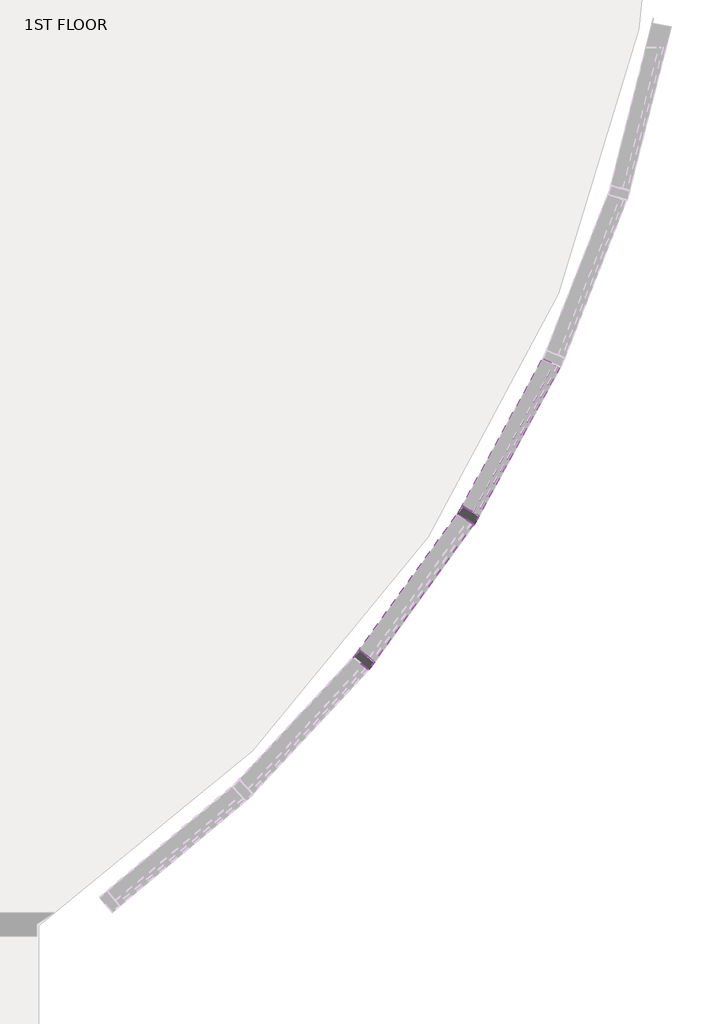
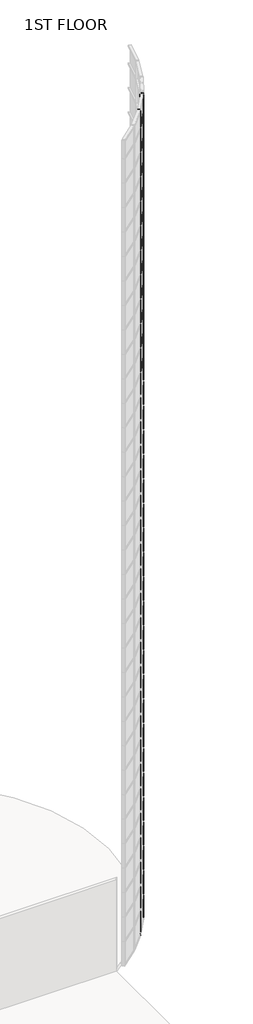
# One storey, part 6 of 17: 90 members, 27 plates.
"""IFC4 building model written with IfcOpenShell, lengths in millimetres."""

from ifc_helpers import new_model, si_unit, origin, place, context, project, spatial, transform, mapped, element, save
from components import member_0c249660, member_2b49869a, member_410c6227, system_panel_glazed_ce2914f7, system_panel_glazed_e049e42f

model = new_model("IFC4")

# Units and contexts
model_context = context("Model", 3, world=origin())
ifc_project = project(units=[si_unit("LENGTHUNIT", "METRE", prefix="MILLI")], contexts=[model_context])

# Site, building, storey
site = spatial("IfcSite", under=ifc_project)
building = spatial("IfcBuilding", under=site)
storey = spatial("IfcBuildingStorey", under=building, Name="1ST FLOOR", Elevation=4572.0)

# Members
placement = place(None, origin())
member_shape = member_0c249660(model_context)
element("IfcMember", 1, ObjectType="Rectangular Mullion : 2.5\" x 5\" rectangular", at=placement, inside=storey, context=model_context, shape_type="MappedRepresentation", body=[
    mapped(member_shape, transform((46857.1097029, 11989.3168429, 32613.6), x_axis=(0.0, 0.0, 1.0), y_axis=(-0.8776564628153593, 0.4792902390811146, 0.0), z_axis=(-0.47929023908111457, -0.8776564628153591, 0.0))),
])
element("IfcMember", 2, ObjectType="Rectangular Mullion : 2.5\" x 5\" rectangular", at=placement, inside=storey, context=model_context, shape_type="MappedRepresentation", body=[
    mapped(member_shape, transform((46181.1531398, 11045.2741552, 32613.6), x_axis=(0.0, 0.0, 1.0), y_axis=(-0.8110758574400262, 0.5849409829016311, 0.0), z_axis=(-0.5849409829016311, -0.8110758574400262, 0.0))),
])
element("IfcMember", 3, ObjectType="Rectangular Mullion : 2.5\" x 5\" rectangular", at=placement, inside=storey, context=model_context, shape_type="MappedRepresentation", body=[
    mapped(member_shape, transform((46857.1097029, 11989.3168429, 33832.8), x_axis=(0.0, 0.0, 1.0), y_axis=(-0.8776564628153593, 0.4792902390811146, 0.0), z_axis=(-0.47929023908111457, -0.8776564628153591, 0.0))),
])
element("IfcMember", 4, ObjectType="Rectangular Mullion : 2.5\" x 5\" rectangular", at=placement, inside=storey, context=model_context, shape_type="MappedRepresentation", body=[
    mapped(member_shape, transform((46181.1531398, 11045.2741552, 33832.8), x_axis=(0.0, 0.0, 1.0), y_axis=(-0.8110758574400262, 0.5849409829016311, 0.0), z_axis=(-0.5849409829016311, -0.8110758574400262, 0.0))),
])
element("IfcMember", 5, ObjectType="Rectangular Mullion : 2.5\" x 5\" rectangular", at=placement, inside=storey, context=model_context, shape_type="MappedRepresentation", body=[
    mapped(member_shape, transform((46857.1097029, 11989.3168429, 35052.0), x_axis=(0.0, 0.0, 1.0), y_axis=(-0.8776564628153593, 0.4792902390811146, 0.0), z_axis=(-0.47929023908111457, -0.8776564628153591, 0.0))),
])
element("IfcMember", 6, ObjectType="Rectangular Mullion : 2.5\" x 5\" rectangular", at=placement, inside=storey, context=model_context, shape_type="MappedRepresentation", body=[
    mapped(member_shape, transform((46181.1531398, 11045.2741552, 35052.0), x_axis=(0.0, 0.0, 1.0), y_axis=(-0.8110758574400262, 0.5849409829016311, 0.0), z_axis=(-0.5849409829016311, -0.8110758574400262, 0.0))),
])
element("IfcMember", 7, ObjectType="Rectangular Mullion : 2.5\" x 5\" rectangular", at=placement, inside=storey, context=model_context, shape_type="MappedRepresentation", body=[
    mapped(member_shape, transform((46857.1097029, 11989.3168429, 36271.2), x_axis=(0.0, 0.0, 1.0), y_axis=(-0.87765646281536, 0.479290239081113, 0.0), z_axis=(-0.479290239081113, -0.87765646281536, 0.0))),
])
element("IfcMember", 8, ObjectType="Rectangular Mullion : 2.5\" x 5\" rectangular", at=placement, inside=storey, context=model_context, shape_type="MappedRepresentation", body=[
    mapped(member_shape, transform((46181.1531398, 11045.2741552, 36271.2), x_axis=(0.0, 0.0, 1.0), y_axis=(-0.8110758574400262, 0.5849409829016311, 0.0), z_axis=(-0.5849409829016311, -0.8110758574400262, 0.0))),
])
element("IfcMember", 9, ObjectType="Rectangular Mullion : 2.5\" x 5\" rectangular", at=placement, inside=storey, context=model_context, shape_type="MappedRepresentation", body=[
    mapped(member_shape, transform((46857.1097029, 11989.3168429, 37490.4), x_axis=(0.0, 0.0, 1.0), y_axis=(-0.87765646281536, 0.479290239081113, 0.0), z_axis=(-0.479290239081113, -0.87765646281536, 0.0))),
])
element("IfcMember", 10, ObjectType="Rectangular Mullion : 2.5\" x 5\" rectangular", at=placement, inside=storey, context=model_context, shape_type="MappedRepresentation", body=[
    mapped(member_shape, transform((46181.1531398, 11045.2741552, 37490.4), x_axis=(0.0, 0.0, 1.0), y_axis=(-0.8110758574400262, 0.5849409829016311, 0.0), z_axis=(-0.5849409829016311, -0.8110758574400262, 0.0))),
])
element("IfcMember", 11, ObjectType="Rectangular Mullion : 2.5\" x 5\" rectangular", at=placement, inside=storey, context=model_context, shape_type="MappedRepresentation", body=[
    mapped(member_shape, transform((46857.1097029, 11989.3168429, 38709.6), x_axis=(0.0, 0.0, 1.0), y_axis=(-0.87765646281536, 0.479290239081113, 0.0), z_axis=(-0.479290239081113, -0.87765646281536, 0.0))),
])
element("IfcMember", 12, ObjectType="Rectangular Mullion : 2.5\" x 5\" rectangular", at=placement, inside=storey, context=model_context, shape_type="MappedRepresentation", body=[
    mapped(member_shape, transform((46181.1531398, 11045.2741552, 38709.6), x_axis=(0.0, 0.0, 1.0), y_axis=(-0.8110758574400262, 0.5849409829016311, 0.0), z_axis=(-0.5849409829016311, -0.8110758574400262, 0.0))),
])
element("IfcMember", 13, ObjectType="Rectangular Mullion : 2.5\" x 5\" rectangular", at=placement, inside=storey, context=model_context, shape_type="MappedRepresentation", body=[
    mapped(member_shape, transform((46857.1097029, 11989.3168429, 39928.8), x_axis=(0.0, 0.0, 1.0), y_axis=(-0.87765646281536, 0.479290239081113, 0.0), z_axis=(-0.479290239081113, -0.87765646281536, 0.0))),
])
element("IfcMember", 14, ObjectType="Rectangular Mullion : 2.5\" x 5\" rectangular", at=placement, inside=storey, context=model_context, shape_type="MappedRepresentation", body=[
    mapped(member_shape, transform((46181.1531398, 11045.2741552, 39928.8), x_axis=(0.0, 0.0, 1.0), y_axis=(-0.8110758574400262, 0.5849409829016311, 0.0), z_axis=(-0.5849409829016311, -0.8110758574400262, 0.0))),
])
element("IfcMember", 15, ObjectType="Rectangular Mullion : 2.5\" x 5\" rectangular", at=placement, inside=storey, context=model_context, shape_type="MappedRepresentation", body=[
    mapped(member_shape, transform((46857.1097029, 11989.3168429, 41148.0), x_axis=(0.0, 0.0, 1.0), y_axis=(-0.87765646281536, 0.479290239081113, 0.0), z_axis=(-0.479290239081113, -0.87765646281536, 0.0))),
])
element("IfcMember", 16, ObjectType="Rectangular Mullion : 2.5\" x 5\" rectangular", at=placement, inside=storey, context=model_context, shape_type="MappedRepresentation", body=[
    mapped(member_shape, transform((46181.1531398, 11045.2741552, 41148.0), x_axis=(0.0, 0.0, 1.0), y_axis=(-0.8110758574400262, 0.5849409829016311, 0.0), z_axis=(-0.5849409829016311, -0.8110758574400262, 0.0))),
])
element("IfcMember", 17, ObjectType="Rectangular Mullion : 2.5\" x 5\" rectangular", at=placement, inside=storey, context=model_context, shape_type="MappedRepresentation", body=[
    mapped(member_shape, transform((46857.1097029, 11989.3168429, 42367.2), x_axis=(0.0, 0.0, 1.0), y_axis=(-0.87765646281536, 0.479290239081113, 0.0), z_axis=(-0.479290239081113, -0.87765646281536, 0.0))),
])
element("IfcMember", 18, ObjectType="Rectangular Mullion : 2.5\" x 5\" rectangular", at=placement, inside=storey, context=model_context, shape_type="MappedRepresentation", body=[
    mapped(member_shape, transform((46181.1531398, 11045.2741552, 42367.2), x_axis=(0.0, 0.0, 1.0), y_axis=(-0.8110758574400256, 0.5849409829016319, 0.0), z_axis=(-0.5849409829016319, -0.8110758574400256, 0.0))),
])
element("IfcMember", 19, ObjectType="Rectangular Mullion : 2.5\" x 5\" rectangular", at=placement, inside=storey, context=model_context, shape_type="MappedRepresentation", body=[
    mapped(member_shape, transform((46857.1097029, 11989.3168429, 43586.4), x_axis=(0.0, 0.0, 1.0), y_axis=(-0.87765646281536, 0.479290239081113, 0.0), z_axis=(-0.479290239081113, -0.87765646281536, 0.0))),
])
element("IfcMember", 20, ObjectType="Rectangular Mullion : 2.5\" x 5\" rectangular", at=placement, inside=storey, context=model_context, shape_type="MappedRepresentation", body=[
    mapped(member_shape, transform((46181.1531398, 11045.2741552, 43586.4), x_axis=(0.0, 0.0, 1.0), y_axis=(-0.8110758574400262, 0.5849409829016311, 0.0), z_axis=(-0.5849409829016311, -0.8110758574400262, 0.0))),
])
element("IfcMember", 21, ObjectType="Rectangular Mullion : 2.5\" x 5\" rectangular", at=placement, inside=storey, context=model_context, shape_type="MappedRepresentation", body=[
    mapped(member_shape, transform((46857.1097029, 11989.3168429, 44805.6), x_axis=(0.0, 0.0, 1.0), y_axis=(-0.87765646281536, 0.479290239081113, 0.0), z_axis=(-0.479290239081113, -0.87765646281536, 0.0))),
])
element("IfcMember", 22, ObjectType="Rectangular Mullion : 2.5\" x 5\" rectangular", at=placement, inside=storey, context=model_context, shape_type="MappedRepresentation", body=[
    mapped(member_shape, transform((46181.1531398, 11045.2741552, 44805.6), x_axis=(0.0, 0.0, 1.0), y_axis=(-0.811075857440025, 0.5849409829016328, 0.0), z_axis=(-0.5849409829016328, -0.811075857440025, 0.0))),
])
member_2_shape = member_2b49869a(model_context)
element("IfcMember", 23, ObjectType="Rectangular Mullion : 2.5\" x 5\" rectangular", at=placement, inside=storey, context=model_context, shape_type="MappedRepresentation", body=[
    mapped(member_2_shape, transform((46841.8922379, 11961.4512502, 4572.0), x_axis=(-0.5331559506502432, -0.8460169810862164, 0.0), y_axis=(-0.8460169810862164, 0.5331559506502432, 0.0), z_axis=(0.0, 0.0, -1.0))),
])
element("IfcMember", 24, ObjectType="Rectangular Mullion : 2.5\" x 5\" rectangular", at=placement, inside=storey, context=model_context, shape_type="MappedRepresentation", body=[
    mapped(member_2_shape, transform((46162.5812636, 11019.5224968, 4572.0), x_axis=(-0.6344432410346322, -0.7729694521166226, 0.0), y_axis=(-0.7729694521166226, 0.6344432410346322, 0.0), z_axis=(0.0, 0.0, -1.0))),
])
element("IfcMember", 25, ObjectType="Rectangular Mullion : 2.5\" x 5\" rectangular", at=placement, inside=storey, context=model_context, shape_type="MappedRepresentation", body=[
    mapped(member_2_shape, transform((46841.8922379, 11961.4512502, 5791.2), x_axis=(-0.5331559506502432, -0.8460169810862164, 0.0), y_axis=(-0.8460169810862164, 0.5331559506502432, 0.0), z_axis=(0.0, 0.0, -1.0))),
])
element("IfcMember", 26, ObjectType="Rectangular Mullion : 2.5\" x 5\" rectangular", at=placement, inside=storey, context=model_context, shape_type="MappedRepresentation", body=[
    mapped(member_2_shape, transform((46162.5812636, 11019.5224968, 5791.2), x_axis=(-0.6344432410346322, -0.7729694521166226, 0.0), y_axis=(-0.7729694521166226, 0.6344432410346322, 0.0), z_axis=(0.0, 0.0, -1.0))),
])
element("IfcMember", 27, ObjectType="Rectangular Mullion : 2.5\" x 5\" rectangular", at=placement, inside=storey, context=model_context, shape_type="MappedRepresentation", body=[
    mapped(member_2_shape, transform((46841.8922379, 11961.4512502, 7010.4), x_axis=(-0.5331559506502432, -0.8460169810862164, 0.0), y_axis=(-0.8460169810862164, 0.5331559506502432, 0.0), z_axis=(0.0, 0.0, -1.0))),
])
element("IfcMember", 28, ObjectType="Rectangular Mullion : 2.5\" x 5\" rectangular", at=placement, inside=storey, context=model_context, shape_type="MappedRepresentation", body=[
    mapped(member_2_shape, transform((46162.5812636, 11019.5224968, 7010.4), x_axis=(-0.6344432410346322, -0.7729694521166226, 0.0), y_axis=(-0.7729694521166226, 0.6344432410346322, 0.0), z_axis=(0.0, 0.0, -1.0))),
])
element("IfcMember", 29, ObjectType="Rectangular Mullion : 2.5\" x 5\" rectangular", at=placement, inside=storey, context=model_context, shape_type="MappedRepresentation", body=[
    mapped(member_2_shape, transform((46841.8922379, 11961.4512502, 8229.6), x_axis=(-0.5331559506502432, -0.8460169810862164, 0.0), y_axis=(-0.8460169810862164, 0.5331559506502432, 0.0), z_axis=(0.0, 0.0, -1.0))),
])
element("IfcMember", 30, ObjectType="Rectangular Mullion : 2.5\" x 5\" rectangular", at=placement, inside=storey, context=model_context, shape_type="MappedRepresentation", body=[
    mapped(member_2_shape, transform((46162.5812636, 11019.5224968, 8229.6), x_axis=(-0.6344432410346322, -0.7729694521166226, 0.0), y_axis=(-0.7729694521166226, 0.6344432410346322, 0.0), z_axis=(0.0, 0.0, -1.0))),
])
element("IfcMember", 31, ObjectType="Rectangular Mullion : 2.5\" x 5\" rectangular", at=placement, inside=storey, context=model_context, shape_type="MappedRepresentation", body=[
    mapped(member_2_shape, transform((46841.8922379, 11961.4512502, 9448.8), x_axis=(-0.5331559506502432, -0.8460169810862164, 0.0), y_axis=(-0.8460169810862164, 0.5331559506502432, 0.0), z_axis=(0.0, 0.0, -1.0))),
])
element("IfcMember", 32, ObjectType="Rectangular Mullion : 2.5\" x 5\" rectangular", at=placement, inside=storey, context=model_context, shape_type="MappedRepresentation", body=[
    mapped(member_2_shape, transform((46162.5812636, 11019.5224968, 9448.8), x_axis=(-0.6344432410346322, -0.7729694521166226, 0.0), y_axis=(-0.7729694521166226, 0.6344432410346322, 0.0), z_axis=(0.0, 0.0, -1.0))),
])
element("IfcMember", 33, ObjectType="Rectangular Mullion : 2.5\" x 5\" rectangular", at=placement, inside=storey, context=model_context, shape_type="MappedRepresentation", body=[
    mapped(member_2_shape, transform((46841.8922379, 11961.4512502, 10668.0), x_axis=(-0.5331559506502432, -0.8460169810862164, 0.0), y_axis=(-0.8460169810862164, 0.5331559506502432, 0.0), z_axis=(0.0, 0.0, -1.0))),
])
element("IfcMember", 34, ObjectType="Rectangular Mullion : 2.5\" x 5\" rectangular", at=placement, inside=storey, context=model_context, shape_type="MappedRepresentation", body=[
    mapped(member_2_shape, transform((46162.5812636, 11019.5224968, 10668.0), x_axis=(-0.6344432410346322, -0.7729694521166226, 0.0), y_axis=(-0.7729694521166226, 0.6344432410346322, 0.0), z_axis=(0.0, 0.0, -1.0))),
])
element("IfcMember", 35, ObjectType="Rectangular Mullion : 2.5\" x 5\" rectangular", at=placement, inside=storey, context=model_context, shape_type="MappedRepresentation", body=[
    mapped(member_2_shape, transform((46841.8922379, 11961.4512502, 11887.2), x_axis=(-0.5331559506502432, -0.8460169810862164, 0.0), y_axis=(-0.8460169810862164, 0.5331559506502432, 0.0), z_axis=(0.0, 0.0, -1.0))),
])
element("IfcMember", 36, ObjectType="Rectangular Mullion : 2.5\" x 5\" rectangular", at=placement, inside=storey, context=model_context, shape_type="MappedRepresentation", body=[
    mapped(member_2_shape, transform((46162.5812636, 11019.5224968, 11887.2), x_axis=(-0.6344432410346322, -0.7729694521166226, 0.0), y_axis=(-0.7729694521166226, 0.6344432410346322, 0.0), z_axis=(0.0, 0.0, -1.0))),
])
element("IfcMember", 37, ObjectType="Rectangular Mullion : 2.5\" x 5\" rectangular", at=placement, inside=storey, context=model_context, shape_type="MappedRepresentation", body=[
    mapped(member_2_shape, transform((46841.8922379, 11961.4512502, 13106.4), x_axis=(-0.5331559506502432, -0.8460169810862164, 0.0), y_axis=(-0.8460169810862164, 0.5331559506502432, 0.0), z_axis=(0.0, 0.0, -1.0))),
])
element("IfcMember", 38, ObjectType="Rectangular Mullion : 2.5\" x 5\" rectangular", at=placement, inside=storey, context=model_context, shape_type="MappedRepresentation", body=[
    mapped(member_2_shape, transform((46162.5812636, 11019.5224968, 13106.4), x_axis=(-0.6344432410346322, -0.7729694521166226, 0.0), y_axis=(-0.7729694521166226, 0.6344432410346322, 0.0), z_axis=(0.0, 0.0, -1.0))),
])
element("IfcMember", 39, ObjectType="Rectangular Mullion : 2.5\" x 5\" rectangular", at=placement, inside=storey, context=model_context, shape_type="MappedRepresentation", body=[
    mapped(member_2_shape, transform((46841.8922379, 11961.4512502, 14325.6), x_axis=(-0.5331559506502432, -0.8460169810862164, 0.0), y_axis=(-0.8460169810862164, 0.5331559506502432, 0.0), z_axis=(0.0, 0.0, -1.0))),
])
element("IfcMember", 40, ObjectType="Rectangular Mullion : 2.5\" x 5\" rectangular", at=placement, inside=storey, context=model_context, shape_type="MappedRepresentation", body=[
    mapped(member_2_shape, transform((46162.5812636, 11019.5224968, 14325.6), x_axis=(-0.6344432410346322, -0.7729694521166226, 0.0), y_axis=(-0.7729694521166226, 0.6344432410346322, 0.0), z_axis=(0.0, 0.0, -1.0))),
])
element("IfcMember", 41, ObjectType="Rectangular Mullion : 2.5\" x 5\" rectangular", at=placement, inside=storey, context=model_context, shape_type="MappedRepresentation", body=[
    mapped(member_2_shape, transform((46841.8922379, 11961.4512502, 15544.8), x_axis=(-0.5331559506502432, -0.8460169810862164, 0.0), y_axis=(-0.8460169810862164, 0.5331559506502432, 0.0), z_axis=(0.0, 0.0, -1.0))),
])
element("IfcMember", 42, ObjectType="Rectangular Mullion : 2.5\" x 5\" rectangular", at=placement, inside=storey, context=model_context, shape_type="MappedRepresentation", body=[
    mapped(member_2_shape, transform((46162.5812636, 11019.5224968, 15544.8), x_axis=(-0.6344432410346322, -0.7729694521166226, 0.0), y_axis=(-0.7729694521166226, 0.6344432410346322, 0.0), z_axis=(0.0, 0.0, -1.0))),
])
element("IfcMember", 43, ObjectType="Rectangular Mullion : 2.5\" x 5\" rectangular", at=placement, inside=storey, context=model_context, shape_type="MappedRepresentation", body=[
    mapped(member_2_shape, transform((46841.8922379, 11961.4512502, 16764.0), x_axis=(-0.5331559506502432, -0.8460169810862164, 0.0), y_axis=(-0.8460169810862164, 0.5331559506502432, 0.0), z_axis=(0.0, 0.0, -1.0))),
])
element("IfcMember", 44, ObjectType="Rectangular Mullion : 2.5\" x 5\" rectangular", at=placement, inside=storey, context=model_context, shape_type="MappedRepresentation", body=[
    mapped(member_2_shape, transform((46162.5812636, 11019.5224968, 16764.0), x_axis=(-0.6344432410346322, -0.7729694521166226, 0.0), y_axis=(-0.7729694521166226, 0.6344432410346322, 0.0), z_axis=(0.0, 0.0, -1.0))),
])
element("IfcMember", 45, ObjectType="Rectangular Mullion : 2.5\" x 5\" rectangular", at=placement, inside=storey, context=model_context, shape_type="MappedRepresentation", body=[
    mapped(member_2_shape, transform((46841.8922379, 11961.4512502, 17983.2), x_axis=(-0.5331559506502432, -0.8460169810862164, 0.0), y_axis=(-0.8460169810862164, 0.5331559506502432, 0.0), z_axis=(0.0, 0.0, -1.0))),
])
element("IfcMember", 46, ObjectType="Rectangular Mullion : 2.5\" x 5\" rectangular", at=placement, inside=storey, context=model_context, shape_type="MappedRepresentation", body=[
    mapped(member_2_shape, transform((46162.5812636, 11019.5224968, 17983.2), x_axis=(-0.6344432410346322, -0.7729694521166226, 0.0), y_axis=(-0.7729694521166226, 0.6344432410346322, 0.0), z_axis=(0.0, 0.0, -1.0))),
])
element("IfcMember", 47, ObjectType="Rectangular Mullion : 2.5\" x 5\" rectangular", at=placement, inside=storey, context=model_context, shape_type="MappedRepresentation", body=[
    mapped(member_2_shape, transform((46841.8922379, 11961.4512502, 19202.4), x_axis=(-0.5331559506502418, -0.8460169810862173, 0.0), y_axis=(-0.8460169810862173, 0.5331559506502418, 0.0), z_axis=(0.0, 0.0, -1.0))),
])
element("IfcMember", 48, ObjectType="Rectangular Mullion : 2.5\" x 5\" rectangular", at=placement, inside=storey, context=model_context, shape_type="MappedRepresentation", body=[
    mapped(member_2_shape, transform((46162.5812636, 11019.5224968, 19202.4), x_axis=(-0.6344432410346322, -0.7729694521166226, 0.0), y_axis=(-0.7729694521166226, 0.6344432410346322, 0.0), z_axis=(0.0, 0.0, -1.0))),
])
element("IfcMember", 49, ObjectType="Rectangular Mullion : 2.5\" x 5\" rectangular", at=placement, inside=storey, context=model_context, shape_type="MappedRepresentation", body=[
    mapped(member_2_shape, transform((46841.8922379, 11961.4512502, 20421.6), x_axis=(-0.5331559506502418, -0.8460169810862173, 0.0), y_axis=(-0.8460169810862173, 0.5331559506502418, 0.0), z_axis=(0.0, 0.0, -1.0))),
])
element("IfcMember", 50, ObjectType="Rectangular Mullion : 2.5\" x 5\" rectangular", at=placement, inside=storey, context=model_context, shape_type="MappedRepresentation", body=[
    mapped(member_2_shape, transform((46162.5812636, 11019.5224968, 20421.6), x_axis=(-0.6344432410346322, -0.7729694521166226, 0.0), y_axis=(-0.7729694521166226, 0.6344432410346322, 0.0), z_axis=(0.0, 0.0, -1.0))),
])
element("IfcMember", 51, ObjectType="Rectangular Mullion : 2.5\" x 5\" rectangular", at=placement, inside=storey, context=model_context, shape_type="MappedRepresentation", body=[
    mapped(member_2_shape, transform((46841.8922379, 11961.4512502, 21640.8), x_axis=(-0.5331559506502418, -0.8460169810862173, 0.0), y_axis=(-0.8460169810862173, 0.5331559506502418, 0.0), z_axis=(0.0, 0.0, -1.0))),
])
element("IfcMember", 52, ObjectType="Rectangular Mullion : 2.5\" x 5\" rectangular", at=placement, inside=storey, context=model_context, shape_type="MappedRepresentation", body=[
    mapped(member_2_shape, transform((46162.5812636, 11019.5224968, 21640.8), x_axis=(-0.6344432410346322, -0.7729694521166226, 0.0), y_axis=(-0.7729694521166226, 0.6344432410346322, 0.0), z_axis=(0.0, 0.0, -1.0))),
])
element("IfcMember", 53, ObjectType="Rectangular Mullion : 2.5\" x 5\" rectangular", at=placement, inside=storey, context=model_context, shape_type="MappedRepresentation", body=[
    mapped(member_2_shape, transform((46841.8922379, 11961.4512502, 22860.0), x_axis=(-0.5331559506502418, -0.8460169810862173, 0.0), y_axis=(-0.8460169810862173, 0.5331559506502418, 0.0), z_axis=(0.0, 0.0, -1.0))),
])
element("IfcMember", 54, ObjectType="Rectangular Mullion : 2.5\" x 5\" rectangular", at=placement, inside=storey, context=model_context, shape_type="MappedRepresentation", body=[
    mapped(member_2_shape, transform((46162.5812636, 11019.5224968, 22860.0), x_axis=(-0.6344432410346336, -0.7729694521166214, 0.0), y_axis=(-0.7729694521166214, 0.6344432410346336, 0.0), z_axis=(0.0, 0.0, -1.0))),
])
element("IfcMember", 55, ObjectType="Rectangular Mullion : 2.5\" x 5\" rectangular", at=placement, inside=storey, context=model_context, shape_type="MappedRepresentation", body=[
    mapped(member_2_shape, transform((46841.8922379, 11961.4512502, 24079.2), x_axis=(-0.5331559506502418, -0.8460169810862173, 0.0), y_axis=(-0.8460169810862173, 0.5331559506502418, 0.0), z_axis=(0.0, 0.0, -1.0))),
])
element("IfcMember", 56, ObjectType="Rectangular Mullion : 2.5\" x 5\" rectangular", at=placement, inside=storey, context=model_context, shape_type="MappedRepresentation", body=[
    mapped(member_2_shape, transform((46162.5812636, 11019.5224968, 24079.2), x_axis=(-0.6344432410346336, -0.7729694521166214, 0.0), y_axis=(-0.7729694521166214, 0.6344432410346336, 0.0), z_axis=(0.0, 0.0, -1.0))),
])
element("IfcMember", 57, ObjectType="Rectangular Mullion : 2.5\" x 5\" rectangular", at=placement, inside=storey, context=model_context, shape_type="MappedRepresentation", body=[
    mapped(member_2_shape, transform((46841.8922379, 11961.4512502, 25298.4), x_axis=(-0.5331559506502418, -0.8460169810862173, 0.0), y_axis=(-0.8460169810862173, 0.5331559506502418, 0.0), z_axis=(0.0, 0.0, -1.0))),
])
element("IfcMember", 58, ObjectType="Rectangular Mullion : 2.5\" x 5\" rectangular", at=placement, inside=storey, context=model_context, shape_type="MappedRepresentation", body=[
    mapped(member_2_shape, transform((46162.5812636, 11019.5224968, 25298.4), x_axis=(-0.6344432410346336, -0.7729694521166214, 0.0), y_axis=(-0.7729694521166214, 0.6344432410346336, 0.0), z_axis=(0.0, 0.0, -1.0))),
])
element("IfcMember", 59, ObjectType="Rectangular Mullion : 2.5\" x 5\" rectangular", at=placement, inside=storey, context=model_context, shape_type="MappedRepresentation", body=[
    mapped(member_2_shape, transform((46841.8922379, 11961.4512502, 26517.6), x_axis=(-0.5331559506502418, -0.8460169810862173, 0.0), y_axis=(-0.8460169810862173, 0.5331559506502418, 0.0), z_axis=(0.0, 0.0, -1.0))),
])
element("IfcMember", 60, ObjectType="Rectangular Mullion : 2.5\" x 5\" rectangular", at=placement, inside=storey, context=model_context, shape_type="MappedRepresentation", body=[
    mapped(member_2_shape, transform((46162.5812636, 11019.5224968, 26517.6), x_axis=(-0.6344432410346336, -0.7729694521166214, 0.0), y_axis=(-0.7729694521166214, 0.6344432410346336, 0.0), z_axis=(0.0, 0.0, -1.0))),
])
element("IfcMember", 61, ObjectType="Rectangular Mullion : 2.5\" x 5\" rectangular", at=placement, inside=storey, context=model_context, shape_type="MappedRepresentation", body=[
    mapped(member_2_shape, transform((46841.8922379, 11961.4512502, 27736.8), x_axis=(-0.5331559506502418, -0.8460169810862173, 0.0), y_axis=(-0.8460169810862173, 0.5331559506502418, 0.0), z_axis=(0.0, 0.0, -1.0))),
])
element("IfcMember", 62, ObjectType="Rectangular Mullion : 2.5\" x 5\" rectangular", at=placement, inside=storey, context=model_context, shape_type="MappedRepresentation", body=[
    mapped(member_2_shape, transform((46162.5812636, 11019.5224968, 27736.8), x_axis=(-0.6344432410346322, -0.7729694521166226, 0.0), y_axis=(-0.7729694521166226, 0.6344432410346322, 0.0), z_axis=(0.0, 0.0, -1.0))),
])
element("IfcMember", 63, ObjectType="Rectangular Mullion : 2.5\" x 5\" rectangular", at=placement, inside=storey, context=model_context, shape_type="MappedRepresentation", body=[
    mapped(member_2_shape, transform((46841.8922379, 11961.4512502, 28956.0), x_axis=(-0.5331559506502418, -0.8460169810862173, 0.0), y_axis=(-0.8460169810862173, 0.5331559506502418, 0.0), z_axis=(0.0, 0.0, -1.0))),
])
element("IfcMember", 64, ObjectType="Rectangular Mullion : 2.5\" x 5\" rectangular", at=placement, inside=storey, context=model_context, shape_type="MappedRepresentation", body=[
    mapped(member_2_shape, transform((46162.5812636, 11019.5224968, 28956.0), x_axis=(-0.6344432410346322, -0.7729694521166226, 0.0), y_axis=(-0.7729694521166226, 0.6344432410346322, 0.0), z_axis=(0.0, 0.0, -1.0))),
])
element("IfcMember", 65, ObjectType="Rectangular Mullion : 2.5\" x 5\" rectangular", at=placement, inside=storey, context=model_context, shape_type="MappedRepresentation", body=[
    mapped(member_2_shape, transform((46841.8922379, 11961.4512502, 30175.2), x_axis=(-0.5331559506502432, -0.8460169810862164, 0.0), y_axis=(-0.8460169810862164, 0.5331559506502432, 0.0), z_axis=(0.0, 0.0, -1.0))),
])
element("IfcMember", 66, ObjectType="Rectangular Mullion : 2.5\" x 5\" rectangular", at=placement, inside=storey, context=model_context, shape_type="MappedRepresentation", body=[
    mapped(member_2_shape, transform((46162.5812636, 11019.5224968, 30175.2), x_axis=(-0.6344432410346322, -0.7729694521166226, 0.0), y_axis=(-0.7729694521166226, 0.6344432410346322, 0.0), z_axis=(0.0, 0.0, -1.0))),
])
element("IfcMember", 67, ObjectType="Rectangular Mullion : 2.5\" x 5\" rectangular", at=placement, inside=storey, context=model_context, shape_type="MappedRepresentation", body=[
    mapped(member_2_shape, transform((46841.8922379, 11961.4512502, 31394.4), x_axis=(-0.5331559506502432, -0.8460169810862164, 0.0), y_axis=(-0.8460169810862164, 0.5331559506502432, 0.0), z_axis=(0.0, 0.0, -1.0))),
])
element("IfcMember", 68, ObjectType="Rectangular Mullion : 2.5\" x 5\" rectangular", at=placement, inside=storey, context=model_context, shape_type="MappedRepresentation", body=[
    mapped(member_2_shape, transform((46162.5812636, 11019.5224968, 31394.4), x_axis=(-0.6344432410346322, -0.7729694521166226, 0.0), y_axis=(-0.7729694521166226, 0.6344432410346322, 0.0), z_axis=(0.0, 0.0, -1.0))),
])
element("IfcMember", 69, ObjectType="Rectangular Mullion : 2.5\" x 5\" rectangular", at=placement, inside=storey, context=model_context, shape_type="MappedRepresentation", body=[
    mapped(member_2_shape, transform((46841.8922379, 11961.4512502, 32613.6), x_axis=(-0.5331559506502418, -0.8460169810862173, 0.0), y_axis=(-0.8460169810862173, 0.5331559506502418, 0.0), z_axis=(0.0, 0.0, -1.0))),
])
element("IfcMember", 70, ObjectType="Rectangular Mullion : 2.5\" x 5\" rectangular", at=placement, inside=storey, context=model_context, shape_type="MappedRepresentation", body=[
    mapped(member_2_shape, transform((46162.5812636, 11019.5224968, 32613.6), x_axis=(-0.6344432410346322, -0.7729694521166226, 0.0), y_axis=(-0.7729694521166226, 0.6344432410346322, 0.0), z_axis=(0.0, 0.0, -1.0))),
])
element("IfcMember", 71, ObjectType="Rectangular Mullion : 2.5\" x 5\" rectangular", at=placement, inside=storey, context=model_context, shape_type="MappedRepresentation", body=[
    mapped(member_2_shape, transform((46841.8922379, 11961.4512502, 33832.8), x_axis=(-0.5331559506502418, -0.8460169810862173, 0.0), y_axis=(-0.8460169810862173, 0.5331559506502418, 0.0), z_axis=(0.0, 0.0, -1.0))),
])
element("IfcMember", 72, ObjectType="Rectangular Mullion : 2.5\" x 5\" rectangular", at=placement, inside=storey, context=model_context, shape_type="MappedRepresentation", body=[
    mapped(member_2_shape, transform((46162.5812636, 11019.5224968, 33832.8), x_axis=(-0.6344432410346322, -0.7729694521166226, 0.0), y_axis=(-0.7729694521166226, 0.6344432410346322, 0.0), z_axis=(0.0, 0.0, -1.0))),
])
element("IfcMember", 73, ObjectType="Rectangular Mullion : 2.5\" x 5\" rectangular", at=placement, inside=storey, context=model_context, shape_type="MappedRepresentation", body=[
    mapped(member_2_shape, transform((46841.8922379, 11961.4512502, 35052.0), x_axis=(-0.5331559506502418, -0.8460169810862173, 0.0), y_axis=(-0.8460169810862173, 0.5331559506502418, 0.0), z_axis=(0.0, 0.0, -1.0))),
])
element("IfcMember", 74, ObjectType="Rectangular Mullion : 2.5\" x 5\" rectangular", at=placement, inside=storey, context=model_context, shape_type="MappedRepresentation", body=[
    mapped(member_2_shape, transform((46162.5812636, 11019.5224968, 35052.0), x_axis=(-0.6344432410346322, -0.7729694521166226, 0.0), y_axis=(-0.7729694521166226, 0.6344432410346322, 0.0), z_axis=(0.0, 0.0, -1.0))),
])
element("IfcMember", 75, ObjectType="Rectangular Mullion : 2.5\" x 5\" rectangular", at=placement, inside=storey, context=model_context, shape_type="MappedRepresentation", body=[
    mapped(member_2_shape, transform((46841.8922379, 11961.4512502, 36271.2), x_axis=(-0.5331559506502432, -0.8460169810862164, 0.0), y_axis=(-0.8460169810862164, 0.5331559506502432, 0.0), z_axis=(0.0, 0.0, -1.0))),
])
element("IfcMember", 76, ObjectType="Rectangular Mullion : 2.5\" x 5\" rectangular", at=placement, inside=storey, context=model_context, shape_type="MappedRepresentation", body=[
    mapped(member_2_shape, transform((46162.5812636, 11019.5224968, 36271.2), x_axis=(-0.6344432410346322, -0.7729694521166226, 0.0), y_axis=(-0.7729694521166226, 0.6344432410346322, 0.0), z_axis=(0.0, 0.0, -1.0))),
])
element("IfcMember", 77, ObjectType="Rectangular Mullion : 2.5\" x 5\" rectangular", at=placement, inside=storey, context=model_context, shape_type="MappedRepresentation", body=[
    mapped(member_2_shape, transform((46841.8922379, 11961.4512502, 37490.4), x_axis=(-0.5331559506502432, -0.8460169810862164, 0.0), y_axis=(-0.8460169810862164, 0.5331559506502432, 0.0), z_axis=(0.0, 0.0, -1.0))),
])
element("IfcMember", 78, ObjectType="Rectangular Mullion : 2.5\" x 5\" rectangular", at=placement, inside=storey, context=model_context, shape_type="MappedRepresentation", body=[
    mapped(member_2_shape, transform((46162.5812636, 11019.5224968, 37490.4), x_axis=(-0.6344432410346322, -0.7729694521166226, 0.0), y_axis=(-0.7729694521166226, 0.6344432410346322, 0.0), z_axis=(0.0, 0.0, -1.0))),
])
element("IfcMember", 79, ObjectType="Rectangular Mullion : 2.5\" x 5\" rectangular", at=placement, inside=storey, context=model_context, shape_type="MappedRepresentation", body=[
    mapped(member_2_shape, transform((46841.8922379, 11961.4512502, 38709.6), x_axis=(-0.5331559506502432, -0.8460169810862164, 0.0), y_axis=(-0.8460169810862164, 0.5331559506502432, 0.0), z_axis=(0.0, 0.0, -1.0))),
])
element("IfcMember", 80, ObjectType="Rectangular Mullion : 2.5\" x 5\" rectangular", at=placement, inside=storey, context=model_context, shape_type="MappedRepresentation", body=[
    mapped(member_2_shape, transform((46162.5812636, 11019.5224968, 38709.6), x_axis=(-0.6344432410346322, -0.7729694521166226, 0.0), y_axis=(-0.7729694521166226, 0.6344432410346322, 0.0), z_axis=(0.0, 0.0, -1.0))),
])
element("IfcMember", 81, ObjectType="Rectangular Mullion : 2.5\" x 5\" rectangular", at=placement, inside=storey, context=model_context, shape_type="MappedRepresentation", body=[
    mapped(member_2_shape, transform((46841.8922379, 11961.4512502, 39928.8), x_axis=(-0.5331559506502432, -0.8460169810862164, 0.0), y_axis=(-0.8460169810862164, 0.5331559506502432, 0.0), z_axis=(0.0, 0.0, -1.0))),
])
element("IfcMember", 82, ObjectType="Rectangular Mullion : 2.5\" x 5\" rectangular", at=placement, inside=storey, context=model_context, shape_type="MappedRepresentation", body=[
    mapped(member_2_shape, transform((46162.5812636, 11019.5224968, 39928.8), x_axis=(-0.6344432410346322, -0.7729694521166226, 0.0), y_axis=(-0.7729694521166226, 0.6344432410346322, 0.0), z_axis=(0.0, 0.0, -1.0))),
])
element("IfcMember", 83, ObjectType="Rectangular Mullion : 2.5\" x 5\" rectangular", at=placement, inside=storey, context=model_context, shape_type="MappedRepresentation", body=[
    mapped(member_2_shape, transform((46841.8922379, 11961.4512502, 41148.0), x_axis=(-0.5331559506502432, -0.8460169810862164, 0.0), y_axis=(-0.8460169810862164, 0.5331559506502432, 0.0), z_axis=(0.0, 0.0, -1.0))),
])
element("IfcMember", 84, ObjectType="Rectangular Mullion : 2.5\" x 5\" rectangular", at=placement, inside=storey, context=model_context, shape_type="MappedRepresentation", body=[
    mapped(member_2_shape, transform((46162.5812636, 11019.5224968, 41148.0), x_axis=(-0.6344432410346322, -0.7729694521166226, 0.0), y_axis=(-0.7729694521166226, 0.6344432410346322, 0.0), z_axis=(0.0, 0.0, -1.0))),
])
element("IfcMember", 85, ObjectType="Rectangular Mullion : 2.5\" x 5\" rectangular", at=placement, inside=storey, context=model_context, shape_type="MappedRepresentation", body=[
    mapped(member_2_shape, transform((46841.8922379, 11961.4512502, 42367.2), x_axis=(-0.5331559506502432, -0.8460169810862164, 0.0), y_axis=(-0.8460169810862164, 0.5331559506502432, 0.0), z_axis=(0.0, 0.0, -1.0))),
])
element("IfcMember", 86, ObjectType="Rectangular Mullion : 2.5\" x 5\" rectangular", at=placement, inside=storey, context=model_context, shape_type="MappedRepresentation", body=[
    mapped(member_2_shape, transform((46162.5812636, 11019.5224968, 42367.2), x_axis=(-0.6344432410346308, -0.7729694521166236, 0.0), y_axis=(-0.7729694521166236, 0.6344432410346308, 0.0), z_axis=(0.0, 0.0, -1.0))),
])
element("IfcMember", 87, ObjectType="Rectangular Mullion : 2.5\" x 5\" rectangular", at=placement, inside=storey, context=model_context, shape_type="MappedRepresentation", body=[
    mapped(member_2_shape, transform((46841.8922379, 11961.4512502, 43586.4), x_axis=(-0.5331559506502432, -0.8460169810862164, 0.0), y_axis=(-0.8460169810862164, 0.5331559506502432, 0.0), z_axis=(0.0, 0.0, -1.0))),
])
element("IfcMember", 88, ObjectType="Rectangular Mullion : 2.5\" x 5\" rectangular", at=placement, inside=storey, context=model_context, shape_type="MappedRepresentation", body=[
    mapped(member_2_shape, transform((46162.5812636, 11019.5224968, 43586.4), x_axis=(-0.6344432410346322, -0.7729694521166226, 0.0), y_axis=(-0.7729694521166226, 0.6344432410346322, 0.0), z_axis=(0.0, 0.0, -1.0))),
])
member_3_shape = member_410c6227(model_context)
element("IfcMember", 89, ObjectType="Rectangular Mullion : 2.5\" x 5\" rectangular", at=placement, inside=storey, context=model_context, shape_type="MappedRepresentation", body=[
    mapped(member_3_shape, transform((46841.8922379, 11961.4512502, 44805.6), x_axis=(-0.5331559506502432, -0.8460169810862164, 0.0), y_axis=(-0.8460169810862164, 0.5331559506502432, 0.0), z_axis=(0.0, 0.0, -1.0))),
])
element("IfcMember", 90, ObjectType="Rectangular Mullion : 2.5\" x 5\" rectangular", at=placement, inside=storey, context=model_context, shape_type="MappedRepresentation", body=[
    mapped(member_3_shape, transform((46162.5812636, 11019.5224968, 44805.6), x_axis=(-0.6344432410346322, -0.7729694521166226, 0.0), y_axis=(-0.7729694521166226, 0.6344432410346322, 0.0), z_axis=(0.0, 0.0, -1.0))),
])

# Plates
system_panel_glazed_shape = system_panel_glazed_ce2914f7(model_context)
element("IfcPlate", 91, ObjectType="System Panel : Glazed", at=placement, inside=storey, context=model_context, shape_type="MappedRepresentation", body=[
    mapped(system_panel_glazed_shape, transform((47120.1999037, 12471.0767374, 4635.5), x_axis=(-0.4792902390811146, -0.8776564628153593, 0.0), y_axis=(0.8776564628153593, -0.4792902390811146, 0.0), z_axis=(0.0, 0.0, 1.0))),
])
system_panel_glazed_2_shape = system_panel_glazed_e049e42f(model_context)
element("IfcPlate", 92, ObjectType="System Panel : Glazed", at=placement, inside=storey, context=model_context, shape_type="MappedRepresentation", body=[
    mapped(system_panel_glazed_2_shape, transform((47120.1999037, 12471.0767374, 5822.95), x_axis=(-0.4792902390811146, -0.8776564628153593, 0.0), y_axis=(0.8776564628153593, -0.4792902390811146, 0.0), z_axis=(0.0, 0.0, 1.0))),
])
element("IfcPlate", 93, ObjectType="System Panel : Glazed", at=placement, inside=storey, context=model_context, shape_type="MappedRepresentation", body=[
    mapped(system_panel_glazed_2_shape, transform((47120.1999037, 12471.0767374, 7042.15), x_axis=(-0.4792902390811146, -0.8776564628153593, 0.0), y_axis=(0.8776564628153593, -0.4792902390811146, 0.0), z_axis=(0.0, 0.0, 1.0))),
])
element("IfcPlate", 94, ObjectType="System Panel : Glazed", at=placement, inside=storey, context=model_context, shape_type="MappedRepresentation", body=[
    mapped(system_panel_glazed_2_shape, transform((47120.1999037, 12471.0767374, 8261.35), x_axis=(-0.4792902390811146, -0.8776564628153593, 0.0), y_axis=(0.8776564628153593, -0.4792902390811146, 0.0), z_axis=(0.0, 0.0, 1.0))),
])
element("IfcPlate", 95, ObjectType="System Panel : Glazed", at=placement, inside=storey, context=model_context, shape_type="MappedRepresentation", body=[
    mapped(system_panel_glazed_2_shape, transform((47120.1999037, 12471.0767374, 9480.55), x_axis=(-0.4792902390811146, -0.8776564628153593, 0.0), y_axis=(0.8776564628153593, -0.4792902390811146, 0.0), z_axis=(0.0, 0.0, 1.0))),
])
element("IfcPlate", 96, ObjectType="System Panel : Glazed", at=placement, inside=storey, context=model_context, shape_type="MappedRepresentation", body=[
    mapped(system_panel_glazed_2_shape, transform((47120.1999037, 12471.0767374, 10699.75), x_axis=(-0.4792902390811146, -0.8776564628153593, 0.0), y_axis=(0.8776564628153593, -0.4792902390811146, 0.0), z_axis=(0.0, 0.0, 1.0))),
])
element("IfcPlate", 97, ObjectType="System Panel : Glazed", at=placement, inside=storey, context=model_context, shape_type="MappedRepresentation", body=[
    mapped(system_panel_glazed_2_shape, transform((47120.1999037, 12471.0767374, 11918.95), x_axis=(-0.4792902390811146, -0.8776564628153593, 0.0), y_axis=(0.8776564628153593, -0.4792902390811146, 0.0), z_axis=(0.0, 0.0, 1.0))),
])
element("IfcPlate", 98, ObjectType="System Panel : Glazed", at=placement, inside=storey, context=model_context, shape_type="MappedRepresentation", body=[
    mapped(system_panel_glazed_2_shape, transform((47120.1999037, 12471.0767374, 13138.15), x_axis=(-0.4792902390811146, -0.8776564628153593, 0.0), y_axis=(0.8776564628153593, -0.4792902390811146, 0.0), z_axis=(0.0, 0.0, 1.0))),
])
element("IfcPlate", 99, ObjectType="System Panel : Glazed", at=placement, inside=storey, context=model_context, shape_type="MappedRepresentation", body=[
    mapped(system_panel_glazed_2_shape, transform((47120.1999037, 12471.0767374, 14357.35), x_axis=(-0.4792902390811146, -0.8776564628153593, 0.0), y_axis=(0.8776564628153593, -0.4792902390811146, 0.0), z_axis=(0.0, 0.0, 1.0))),
])
element("IfcPlate", 100, ObjectType="System Panel : Glazed", at=placement, inside=storey, context=model_context, shape_type="MappedRepresentation", body=[
    mapped(system_panel_glazed_2_shape, transform((47120.1999037, 12471.0767374, 15576.55), x_axis=(-0.4792902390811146, -0.8776564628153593, 0.0), y_axis=(0.8776564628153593, -0.4792902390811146, 0.0), z_axis=(0.0, 0.0, 1.0))),
])
element("IfcPlate", 101, ObjectType="System Panel : Glazed", at=placement, inside=storey, context=model_context, shape_type="MappedRepresentation", body=[
    mapped(system_panel_glazed_2_shape, transform((47120.1999037, 12471.0767374, 16795.75), x_axis=(-0.4792902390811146, -0.8776564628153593, 0.0), y_axis=(0.8776564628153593, -0.4792902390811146, 0.0), z_axis=(0.0, 0.0, 1.0))),
])
element("IfcPlate", 102, ObjectType="System Panel : Glazed", at=placement, inside=storey, context=model_context, shape_type="MappedRepresentation", body=[
    mapped(system_panel_glazed_2_shape, transform((47120.1999037, 12471.0767374, 18014.95), x_axis=(-0.4792902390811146, -0.8776564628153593, 0.0), y_axis=(0.8776564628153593, -0.4792902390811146, 0.0), z_axis=(0.0, 0.0, 1.0))),
])
element("IfcPlate", 103, ObjectType="System Panel : Glazed", at=placement, inside=storey, context=model_context, shape_type="MappedRepresentation", body=[
    mapped(system_panel_glazed_2_shape, transform((47120.1999037, 12471.0767374, 19234.15), x_axis=(-0.4792902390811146, -0.8776564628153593, 0.0), y_axis=(0.8776564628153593, -0.4792902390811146, 0.0), z_axis=(0.0, 0.0, 1.0))),
])
element("IfcPlate", 104, ObjectType="System Panel : Glazed", at=placement, inside=storey, context=model_context, shape_type="MappedRepresentation", body=[
    mapped(system_panel_glazed_2_shape, transform((47120.1999037, 12471.0767374, 20453.35), x_axis=(-0.4792902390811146, -0.8776564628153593, 0.0), y_axis=(0.8776564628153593, -0.4792902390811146, 0.0), z_axis=(0.0, 0.0, 1.0))),
])
element("IfcPlate", 105, ObjectType="System Panel : Glazed", at=placement, inside=storey, context=model_context, shape_type="MappedRepresentation", body=[
    mapped(system_panel_glazed_2_shape, transform((47120.1999037, 12471.0767374, 21672.55), x_axis=(-0.4792902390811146, -0.8776564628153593, 0.0), y_axis=(0.8776564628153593, -0.4792902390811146, 0.0), z_axis=(0.0, 0.0, 1.0))),
])
element("IfcPlate", 106, ObjectType="System Panel : Glazed", at=placement, inside=storey, context=model_context, shape_type="MappedRepresentation", body=[
    mapped(system_panel_glazed_2_shape, transform((47120.1999037, 12471.0767374, 22891.75), x_axis=(-0.4792902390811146, -0.8776564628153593, 0.0), y_axis=(0.8776564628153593, -0.4792902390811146, 0.0), z_axis=(0.0, 0.0, 1.0))),
])
element("IfcPlate", 107, ObjectType="System Panel : Glazed", at=placement, inside=storey, context=model_context, shape_type="MappedRepresentation", body=[
    mapped(system_panel_glazed_2_shape, transform((47120.1999037, 12471.0767374, 24110.95), x_axis=(-0.4792902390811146, -0.8776564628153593, 0.0), y_axis=(0.8776564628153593, -0.4792902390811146, 0.0), z_axis=(0.0, 0.0, 1.0))),
])
element("IfcPlate", 108, ObjectType="System Panel : Glazed", at=placement, inside=storey, context=model_context, shape_type="MappedRepresentation", body=[
    mapped(system_panel_glazed_2_shape, transform((47120.1999037, 12471.0767374, 25330.15), x_axis=(-0.4792902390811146, -0.8776564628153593, 0.0), y_axis=(0.8776564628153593, -0.4792902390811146, 0.0), z_axis=(0.0, 0.0, 1.0))),
])
element("IfcPlate", 109, ObjectType="System Panel : Glazed", at=placement, inside=storey, context=model_context, shape_type="MappedRepresentation", body=[
    mapped(system_panel_glazed_2_shape, transform((47120.1999037, 12471.0767374, 26549.35), x_axis=(-0.4792902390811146, -0.8776564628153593, 0.0), y_axis=(0.8776564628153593, -0.4792902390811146, 0.0), z_axis=(0.0, 0.0, 1.0))),
])
element("IfcPlate", 110, ObjectType="System Panel : Glazed", at=placement, inside=storey, context=model_context, shape_type="MappedRepresentation", body=[
    mapped(system_panel_glazed_2_shape, transform((47120.1999037, 12471.0767374, 27768.55), x_axis=(-0.4792902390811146, -0.8776564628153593, 0.0), y_axis=(0.8776564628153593, -0.4792902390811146, 0.0), z_axis=(0.0, 0.0, 1.0))),
])
element("IfcPlate", 111, ObjectType="System Panel : Glazed", at=placement, inside=storey, context=model_context, shape_type="MappedRepresentation", body=[
    mapped(system_panel_glazed_2_shape, transform((47120.1999037, 12471.0767374, 28987.75), x_axis=(-0.4792902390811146, -0.8776564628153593, 0.0), y_axis=(0.8776564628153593, -0.4792902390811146, 0.0), z_axis=(0.0, 0.0, 1.0))),
])
element("IfcPlate", 112, ObjectType="System Panel : Glazed", at=placement, inside=storey, context=model_context, shape_type="MappedRepresentation", body=[
    mapped(system_panel_glazed_2_shape, transform((47120.1999037, 12471.0767374, 30206.95), x_axis=(-0.4792902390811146, -0.8776564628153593, 0.0), y_axis=(0.8776564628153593, -0.4792902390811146, 0.0), z_axis=(0.0, 0.0, 1.0))),
])
element("IfcPlate", 113, ObjectType="System Panel : Glazed", at=placement, inside=storey, context=model_context, shape_type="MappedRepresentation", body=[
    mapped(system_panel_glazed_2_shape, transform((47120.1999037, 12471.0767374, 31426.15), x_axis=(-0.4792902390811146, -0.8776564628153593, 0.0), y_axis=(0.8776564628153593, -0.4792902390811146, 0.0), z_axis=(0.0, 0.0, 1.0))),
])
element("IfcPlate", 114, ObjectType="System Panel : Glazed", at=placement, inside=storey, context=model_context, shape_type="MappedRepresentation", body=[
    mapped(system_panel_glazed_2_shape, transform((47120.1999037, 12471.0767374, 32645.35), x_axis=(-0.4792902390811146, -0.8776564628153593, 0.0), y_axis=(0.8776564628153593, -0.4792902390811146, 0.0), z_axis=(0.0, 0.0, 1.0))),
])
element("IfcPlate", 115, ObjectType="System Panel : Glazed", at=placement, inside=storey, context=model_context, shape_type="MappedRepresentation", body=[
    mapped(system_panel_glazed_2_shape, transform((47120.1999037, 12471.0767374, 33864.55), x_axis=(-0.4792902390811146, -0.8776564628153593, 0.0), y_axis=(0.8776564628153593, -0.4792902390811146, 0.0), z_axis=(0.0, 0.0, 1.0))),
])
element("IfcPlate", 116, ObjectType="System Panel : Glazed", at=placement, inside=storey, context=model_context, shape_type="MappedRepresentation", body=[
    mapped(system_panel_glazed_2_shape, transform((47120.1999037, 12471.0767374, 35083.75), x_axis=(-0.4792902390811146, -0.8776564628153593, 0.0), y_axis=(0.8776564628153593, -0.4792902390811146, 0.0), z_axis=(0.0, 0.0, 1.0))),
])
element("IfcPlate", 117, ObjectType="System Panel : Glazed", at=placement, inside=storey, context=model_context, shape_type="MappedRepresentation", body=[
    mapped(system_panel_glazed_2_shape, transform((47120.1999037, 12471.0767374, 36302.95), x_axis=(-0.4792902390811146, -0.8776564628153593, 0.0), y_axis=(0.8776564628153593, -0.4792902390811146, 0.0), z_axis=(0.0, 0.0, 1.0))),
])

save(model, "model.ifc")
